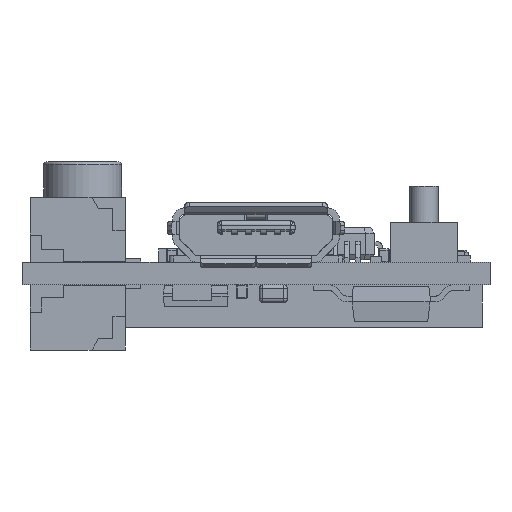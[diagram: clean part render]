
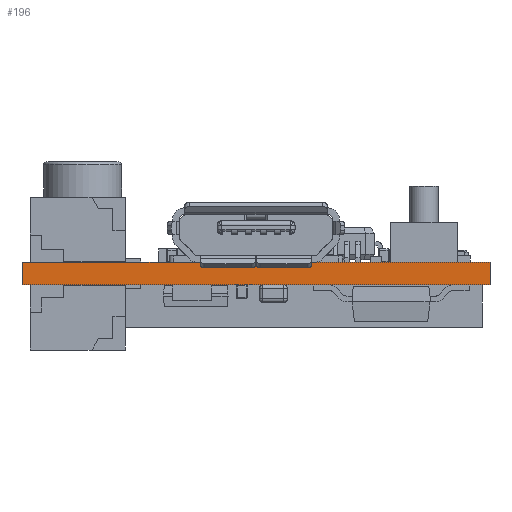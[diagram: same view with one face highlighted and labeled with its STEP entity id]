
A CAD part, front view. The second image highlights one B-rep face of the part: STEP entity #196.
In plain terms, the highlighted planar face has unit normal (0, -1, 0).
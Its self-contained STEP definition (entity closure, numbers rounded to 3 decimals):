
#196 = ADVANCED_FACE('',(#197),#211,.F.);
#197 = FACE_BOUND('',#198,.F.);
#198 = EDGE_LOOP('',(#199,#234,#262,#290));
#199 = ORIENTED_EDGE('',*,*,#200,.T.);
#200 = EDGE_CURVE('',#201,#203,#205,.T.);
#201 = VERTEX_POINT('',#202);
#202 = CARTESIAN_POINT('',(0.,0.,0.));
#203 = VERTEX_POINT('',#204);
#204 = CARTESIAN_POINT('',(0.,0.,1.011));
#205 = SURFACE_CURVE('',#206,(#210,#222),.PCURVE_S1.);
#206 = LINE('',#207,#208);
#207 = CARTESIAN_POINT('',(0.,0.,0.));
#208 = VECTOR('',#209,1.);
#209 = DIRECTION('',(0.,0.,1.));
#210 = PCURVE('',#211,#216);
#211 = PLANE('',#212);
#212 = AXIS2_PLACEMENT_3D('',#213,#214,#215);
#213 = CARTESIAN_POINT('',(0.,0.,0.));
#214 = DIRECTION('',(0.,1.,0.));
#215 = DIRECTION('',(1.,0.,0.));
#216 = DEFINITIONAL_REPRESENTATION('',(#217),#221);
#217 = LINE('',#218,#219);
#218 = CARTESIAN_POINT('',(0.,0.));
#219 = VECTOR('',#220,1.);
#220 = DIRECTION('',(0.,-1.));
#221 = ( GEOMETRIC_REPRESENTATION_CONTEXT(2) 
PARAMETRIC_REPRESENTATION_CONTEXT() REPRESENTATION_CONTEXT('2D SPACE',''
  ) );
#222 = PCURVE('',#223,#228);
#223 = PLANE('',#224);
#224 = AXIS2_PLACEMENT_3D('',#225,#226,#227);
#225 = CARTESIAN_POINT('',(0.,27.003,0.));
#226 = DIRECTION('',(1.,0.,0.));
#227 = DIRECTION('',(0.,-1.,0.));
#228 = DEFINITIONAL_REPRESENTATION('',(#229),#233);
#229 = LINE('',#230,#231);
#230 = CARTESIAN_POINT('',(27.003,0.));
#231 = VECTOR('',#232,1.);
#232 = DIRECTION('',(0.,-1.));
#233 = ( GEOMETRIC_REPRESENTATION_CONTEXT(2) 
PARAMETRIC_REPRESENTATION_CONTEXT() REPRESENTATION_CONTEXT('2D SPACE',''
  ) );
#234 = ORIENTED_EDGE('',*,*,#235,.T.);
#235 = EDGE_CURVE('',#203,#236,#238,.T.);
#236 = VERTEX_POINT('',#237);
#237 = CARTESIAN_POINT('',(21.,0.,1.011));
#238 = SURFACE_CURVE('',#239,(#243,#250),.PCURVE_S1.);
#239 = LINE('',#240,#241);
#240 = CARTESIAN_POINT('',(0.,0.,1.011));
#241 = VECTOR('',#242,1.);
#242 = DIRECTION('',(1.,0.,0.));
#243 = PCURVE('',#211,#244);
#244 = DEFINITIONAL_REPRESENTATION('',(#245),#249);
#245 = LINE('',#246,#247);
#246 = CARTESIAN_POINT('',(0.,-1.011));
#247 = VECTOR('',#248,1.);
#248 = DIRECTION('',(1.,0.));
#249 = ( GEOMETRIC_REPRESENTATION_CONTEXT(2) 
PARAMETRIC_REPRESENTATION_CONTEXT() REPRESENTATION_CONTEXT('2D SPACE',''
  ) );
#250 = PCURVE('',#251,#256);
#251 = PLANE('',#252);
#252 = AXIS2_PLACEMENT_3D('',#253,#254,#255);
#253 = CARTESIAN_POINT('',(0.,0.,1.011));
#254 = DIRECTION('',(0.,0.,-1.));
#255 = DIRECTION('',(-1.,0.,0.));
#256 = DEFINITIONAL_REPRESENTATION('',(#257),#261);
#257 = LINE('',#258,#259);
#258 = CARTESIAN_POINT('',(0.,0.));
#259 = VECTOR('',#260,1.);
#260 = DIRECTION('',(-1.,0.));
#261 = ( GEOMETRIC_REPRESENTATION_CONTEXT(2) 
PARAMETRIC_REPRESENTATION_CONTEXT() REPRESENTATION_CONTEXT('2D SPACE',''
  ) );
#262 = ORIENTED_EDGE('',*,*,#263,.F.);
#263 = EDGE_CURVE('',#264,#236,#266,.T.);
#264 = VERTEX_POINT('',#265);
#265 = CARTESIAN_POINT('',(21.,0.,0.));
#266 = SURFACE_CURVE('',#267,(#271,#278),.PCURVE_S1.);
#267 = LINE('',#268,#269);
#268 = CARTESIAN_POINT('',(21.,0.,0.));
#269 = VECTOR('',#270,1.);
#270 = DIRECTION('',(0.,0.,1.));
#271 = PCURVE('',#211,#272);
#272 = DEFINITIONAL_REPRESENTATION('',(#273),#277);
#273 = LINE('',#274,#275);
#274 = CARTESIAN_POINT('',(21.,0.));
#275 = VECTOR('',#276,1.);
#276 = DIRECTION('',(0.,-1.));
#277 = ( GEOMETRIC_REPRESENTATION_CONTEXT(2) 
PARAMETRIC_REPRESENTATION_CONTEXT() REPRESENTATION_CONTEXT('2D SPACE',''
  ) );
#278 = PCURVE('',#279,#284);
#279 = PLANE('',#280);
#280 = AXIS2_PLACEMENT_3D('',#281,#282,#283);
#281 = CARTESIAN_POINT('',(21.,0.,0.));
#282 = DIRECTION('',(-1.,0.,0.));
#283 = DIRECTION('',(0.,1.,0.));
#284 = DEFINITIONAL_REPRESENTATION('',(#285),#289);
#285 = LINE('',#286,#287);
#286 = CARTESIAN_POINT('',(0.,0.));
#287 = VECTOR('',#288,1.);
#288 = DIRECTION('',(0.,-1.));
#289 = ( GEOMETRIC_REPRESENTATION_CONTEXT(2) 
PARAMETRIC_REPRESENTATION_CONTEXT() REPRESENTATION_CONTEXT('2D SPACE',''
  ) );
#290 = ORIENTED_EDGE('',*,*,#291,.F.);
#291 = EDGE_CURVE('',#201,#264,#292,.T.);
#292 = SURFACE_CURVE('',#293,(#297,#304),.PCURVE_S1.);
#293 = LINE('',#294,#295);
#294 = CARTESIAN_POINT('',(0.,0.,0.));
#295 = VECTOR('',#296,1.);
#296 = DIRECTION('',(1.,0.,0.));
#297 = PCURVE('',#211,#298);
#298 = DEFINITIONAL_REPRESENTATION('',(#299),#303);
#299 = LINE('',#300,#301);
#300 = CARTESIAN_POINT('',(0.,0.));
#301 = VECTOR('',#302,1.);
#302 = DIRECTION('',(1.,0.));
#303 = ( GEOMETRIC_REPRESENTATION_CONTEXT(2) 
PARAMETRIC_REPRESENTATION_CONTEXT() REPRESENTATION_CONTEXT('2D SPACE',''
  ) );
#304 = PCURVE('',#305,#310);
#305 = PLANE('',#306);
#306 = AXIS2_PLACEMENT_3D('',#307,#308,#309);
#307 = CARTESIAN_POINT('',(0.,0.,0.));
#308 = DIRECTION('',(0.,0.,-1.));
#309 = DIRECTION('',(-1.,0.,0.));
#310 = DEFINITIONAL_REPRESENTATION('',(#311),#315);
#311 = LINE('',#312,#313);
#312 = CARTESIAN_POINT('',(0.,0.));
#313 = VECTOR('',#314,1.);
#314 = DIRECTION('',(-1.,0.));
#315 = ( GEOMETRIC_REPRESENTATION_CONTEXT(2) 
PARAMETRIC_REPRESENTATION_CONTEXT() REPRESENTATION_CONTEXT('2D SPACE',''
  ) );
